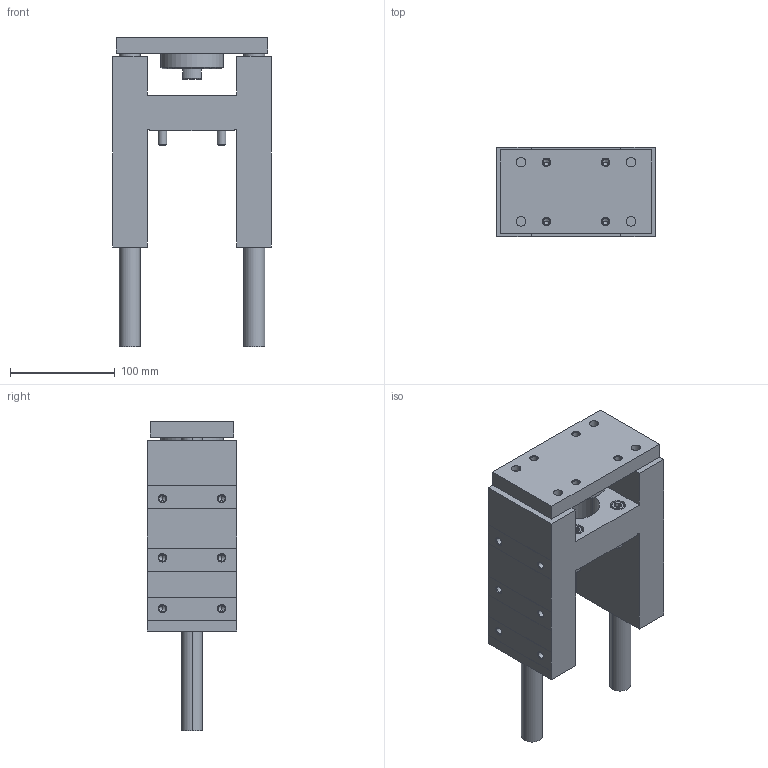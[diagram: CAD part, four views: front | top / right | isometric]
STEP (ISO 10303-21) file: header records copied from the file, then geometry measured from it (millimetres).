
FILE_DESCRIPTION (( 'STEP AP203' ), '1' );
FILE_NAME ('GB63-75.STEP', '2020-04-24T13:20:12', ( '' ), ( '' ), 'SwSTEP 2.0', 'SolidWorks 2019', '' );
FILE_SCHEMA (( 'CONFIG_CONTROL_DESIGN' ));
Length unit declared in the file: millimetre
Products named in the file (1): GB63-75
Bounding box: 152 x 85 x 295 mm (x, y, z)
Volume: 1472002 mm3; surface area: 223630.1 mm2
Topology: 6 solids, 6 shells, 363 faces, 814 edges, 462 vertices
Faces by surface type: cone 146, plane 115, cylinder 102
Entity records: 10453 total; most frequent: CARTESIAN_POINT 2284, DIRECTION 1812, ORIENTED_EDGE 1556, EDGE_CURVE 778, AXIS2_PLACEMENT_3D 702, VERTEX_POINT 462, EDGE_LOOP 428, LINE 408
